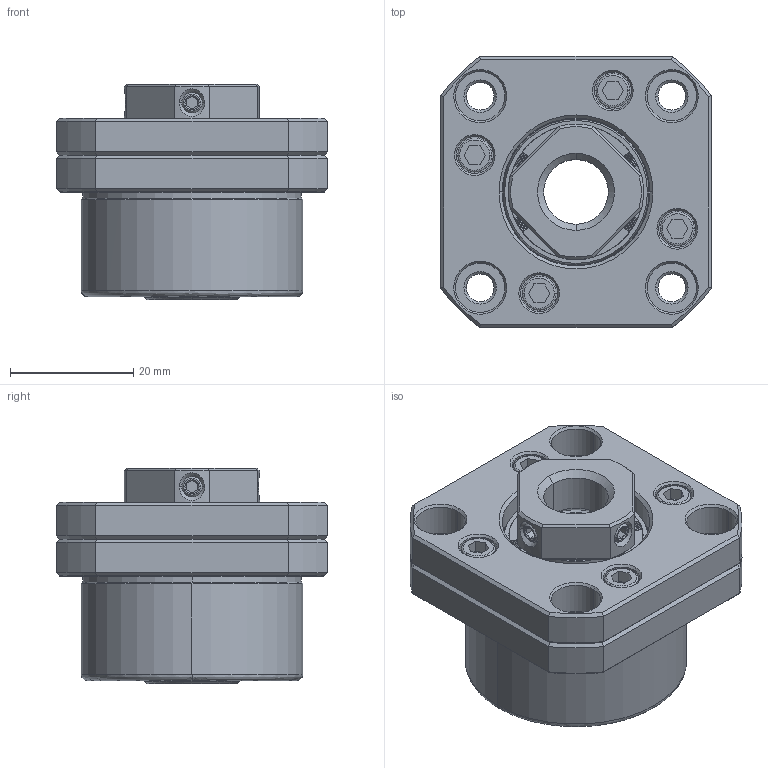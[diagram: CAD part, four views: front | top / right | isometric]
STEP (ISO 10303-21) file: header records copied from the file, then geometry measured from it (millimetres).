
FILE_DESCRIPTION (( 'STEP AP214' ), '1' );
FILE_NAME ('7.4018 FK12.STEP', '2026-03-06T07:32:27', ( '' ), ( '' ), 'SwSTEP 2.0', 'SolidWorks 2025', '' );
FILE_SCHEMA (( 'AUTOMOTIVE_DESIGN' ));
Length unit declared in the file: millimetre
Products named in the file (1): 7.4018 FK12
Bounding box: 44 x 44 x 35 mm (x, y, z)
Volume: 32857.7 mm3; surface area: 21918.3 mm2
Topology: 13 solids, 13 shells, 804 faces, 2025 edges, 1286 vertices
Faces by surface type: cone 330, plane 245, cylinder 157, bspline 72
Entity records: 31792 total; most frequent: CARTESIAN_POINT 7602, ORIENTED_EDGE 4050, DIRECTION 4003, EDGE_CURVE 2025, AXIS2_PLACEMENT_3D 1679, VERTEX_POINT 1286, CIRCLE 946, EDGE_LOOP 885
